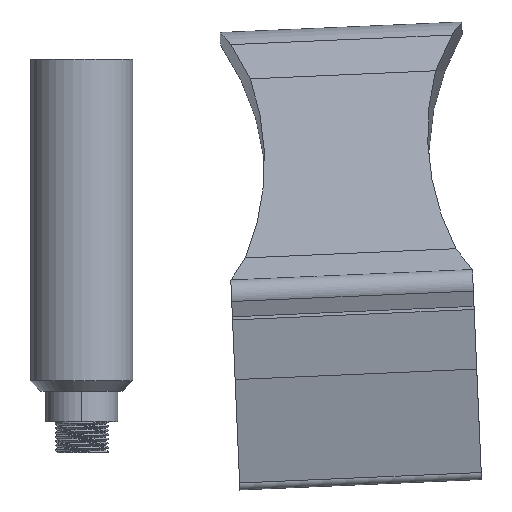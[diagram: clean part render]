
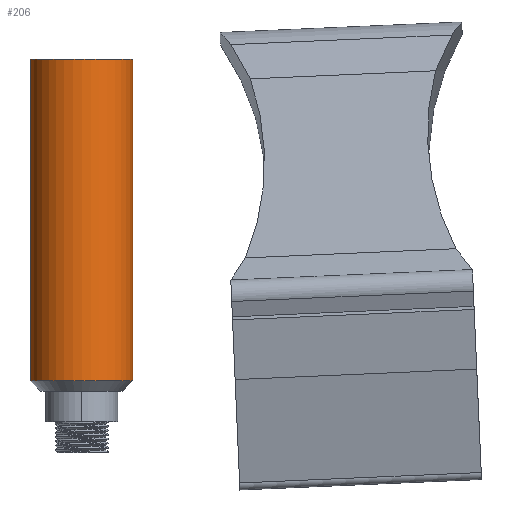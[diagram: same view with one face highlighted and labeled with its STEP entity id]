
A CAD part, front view. The second image highlights one B-rep face of the part: STEP entity #206.
In plain terms, the highlighted cylindrical face has radius 25 mm (diameter 50 mm), a partial arc.
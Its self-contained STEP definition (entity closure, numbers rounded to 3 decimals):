
#52=DIRECTION('',(0.,0.,1.));
#53=VECTOR('',#52,157.);
#54=CARTESIAN_POINT('',(25.,0.,5.));
#55=LINE('',#54,#53);
#56=CARTESIAN_POINT('',(0.,0.,5.));
#57=DIRECTION('',(0.,0.,-1.));
#58=DIRECTION('',(1.,0.,0.));
#59=AXIS2_PLACEMENT_3D('',#56,#57,#58);
#61=DIRECTION('',(0.,0.,1.));
#62=VECTOR('',#61,157.);
#63=CARTESIAN_POINT('',(-25.,0.,
5.));
#64=LINE('',#63,#62);
#70=CARTESIAN_POINT('',(0.,0.,162.));
#71=DIRECTION('',(0.,0.,1.));
#72=DIRECTION('',(-1.,0.,0.));
#73=AXIS2_PLACEMENT_3D('',#70,#71,#72);
#75=CARTESIAN_POINT('',(25.,0.,162.));
#76=CARTESIAN_POINT('',(-25.,0.,162.));
#77=VERTEX_POINT('',#75);
#78=VERTEX_POINT('',#76);
#91=CARTESIAN_POINT('',(25.,0.,5.));
#92=CARTESIAN_POINT('',(-25.,0.,5.));
#93=VERTEX_POINT('',#91);
#94=VERTEX_POINT('',#92);
#194=CARTESIAN_POINT('',(0.,0.,0.));
#195=DIRECTION('',(0.,0.,1.));
#196=DIRECTION('',(1.,0.,0.));
#197=AXIS2_PLACEMENT_3D('',#194,#195,#196);
#198=CYLINDRICAL_SURFACE('',#197,25.);
#199=ORIENTED_EDGE('',*,*,#159,.T.);
#200=ORIENTED_EDGE('',*,*,#189,.T.);
#202=ORIENTED_EDGE('',*,*,#201,.T.);
#203=ORIENTED_EDGE('',*,*,#185,.F.);
#204=EDGE_LOOP('',(#199,#200,#202,#203));
#205=FACE_OUTER_BOUND('',#204,.F.);
#206=ADVANCED_FACE('',(#205),#198,.T.);
#60=CIRCLE('',#59,25.);
#74=CIRCLE('',#73,25.);
#159=EDGE_CURVE('',#93,#94,#60,.T.);
#185=EDGE_CURVE('',#93,#77,#55,.T.);
#189=EDGE_CURVE('',#94,#78,#64,.T.);
#201=EDGE_CURVE('',#78,#77,#74,.T.);
